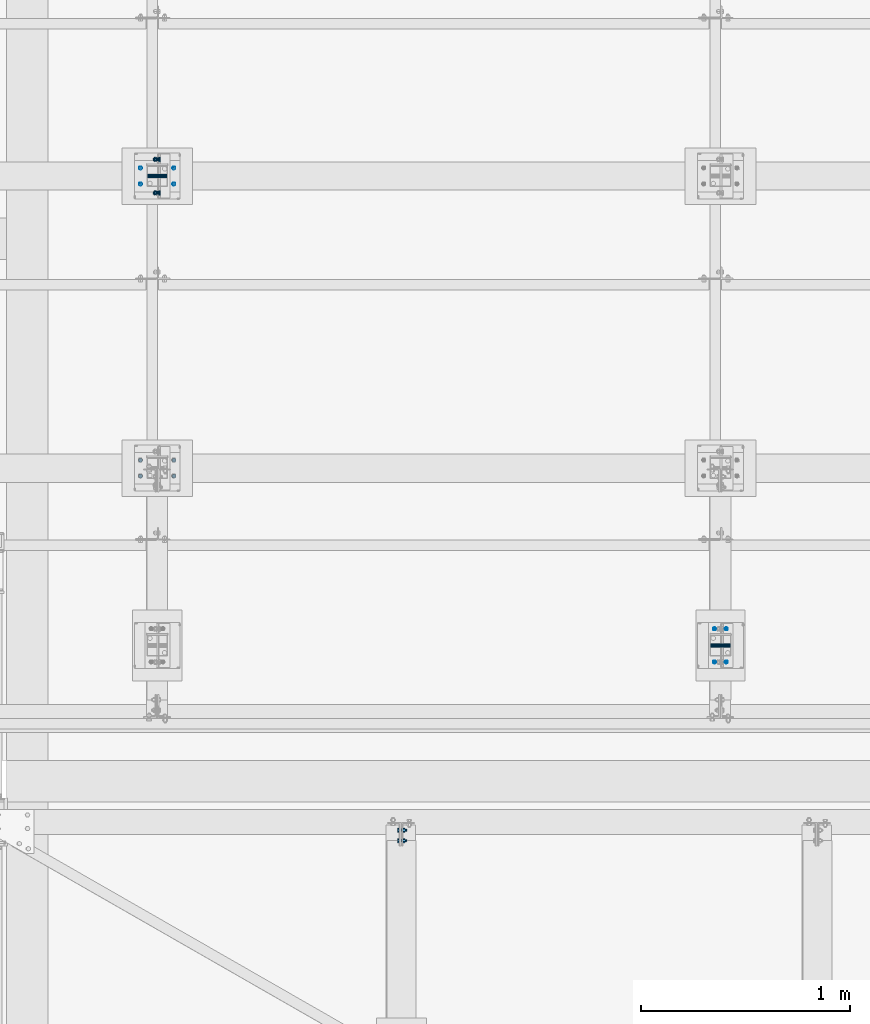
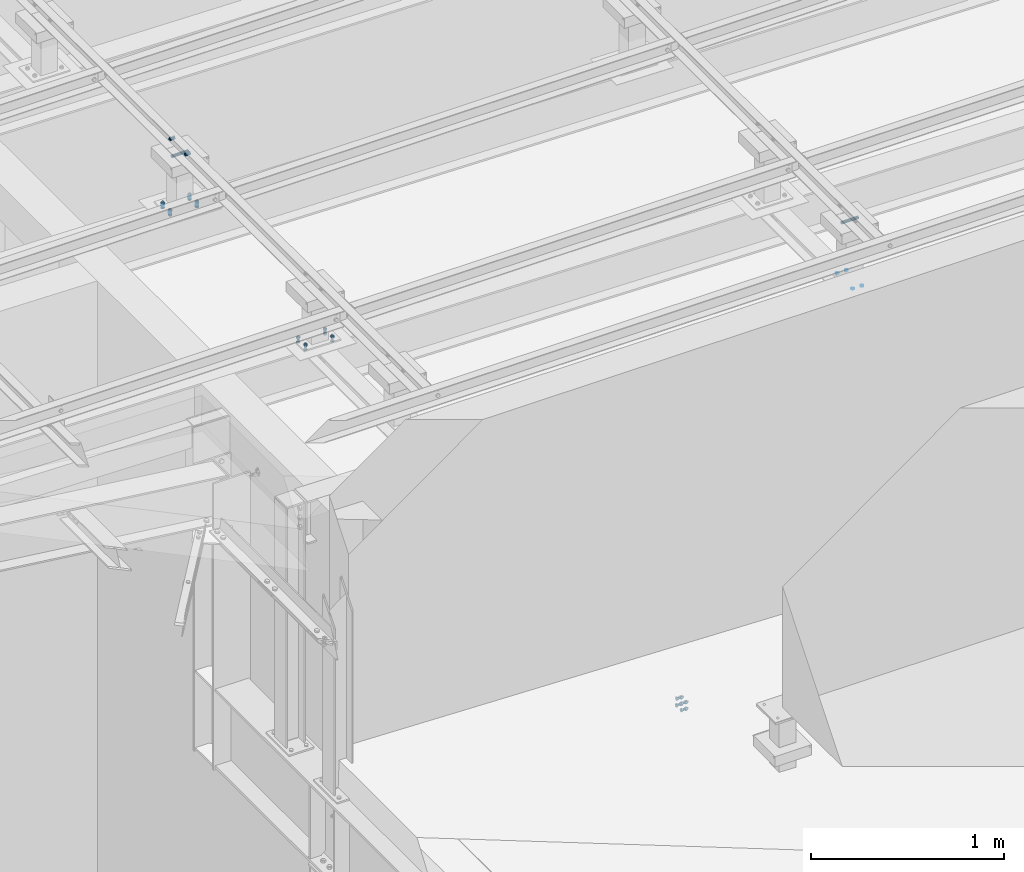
# One storey, part 390 of 3134: 8 mechanical fasteners, 7 elements without a shape of their own.
"""IFC2X3 building model written with IfcOpenShell, lengths in millimetres."""

from ifc_helpers import new_model, si_unit, frame, origin_with_axes, place, context, subcontext, project, spatial, faceted_brep, source, transform, mapped, material, type_object, element, aggregate, save


model = new_model("IFC2X3")

# Units and contexts
model_context = context("Model", 3, precision=1e-05, world=origin_with_axes())
body_context = subcontext(model_context, "Body", "Model", "MODEL_VIEW")
ifc_project = project(units=[si_unit("LENGTHUNIT", "METRE", prefix="MILLI"), si_unit("AREAUNIT", "SQUARE_METRE"), si_unit("VOLUMEUNIT", "CUBIC_METRE"), si_unit("MASSUNIT", "GRAM", prefix="KILO"), si_unit("TIMEUNIT", "SECOND"), si_unit("PLANEANGLEUNIT", "RADIAN"), si_unit("SOLIDANGLEUNIT", "STERADIAN"), si_unit("THERMODYNAMICTEMPERATUREUNIT", "DEGREE_CELSIUS"), si_unit("LUMINOUSINTENSITYUNIT", "LUMEN")], contexts=[model_context])

# Site, building, storey
site_placement = place(None, origin_with_axes())
site = spatial("IfcSite", under=ifc_project, at=site_placement, CompositionType="ELEMENT")
building_placement = place(site_placement, origin_with_axes())
building = spatial("IfcBuilding", under=site, at=building_placement, Name="Undefined", CompositionType="ELEMENT")
storey_placement = place(building_placement, origin_with_axes())
storey = spatial("IfcBuildingStorey", under=building, at=storey_placement, Name="Undefined", CompositionType="ELEMENT", Elevation=0.0)

# Assembly, mechanical fastener
assembly_1_placement = place(storey_placement, origin_with_axes())
assembly_1 = element("IfcElementAssembly", 1, at=assembly_1_placement, inside=storey, AssemblyPlace="NOTDEFINED", PredefinedType="RIGID_FRAME")
ifc_material = material(Name="8.8")
mechanical_fastener_type = type_object("IfcMechanicalFastenerType", Name="Bolt assembly")
shared_shape_1 = source(origin_with_axes(), body_context, "Body", "Brep", [
    faceted_brep([(10.9696551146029, -14.0, 0.0), (5.48482755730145, -14.0, 9.5), (-5.48482755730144, -14.0, 9.5), (-10.9696551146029, -14.0, 1.34339530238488e-15), (-5.48482755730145, -14.0, -9.5), (5.48482755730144, -14.0, -9.50000000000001), (5.48482755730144, -6.0, -9.50000000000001), (-5.48482755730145, -6.0, -9.5), (-10.9696551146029, -6.0, 1.34339530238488e-15), (-5.48482755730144, -6.0, 9.5), (5.48482755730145, -6.0, 9.5), (10.9696551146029, -6.0, 0.0), (6.0, -6.0, 0.0), (5.19615242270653, -6.0, 3.00000000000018), (2.99999999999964, -6.0, 5.19615242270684), (-6.21801588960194e-13, -6.0, 6.0), (-3.00000000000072, -6.0, 5.19615242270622), (-5.19615242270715, -6.0, 2.9999999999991), (-6.0, -6.0, -1.24360317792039e-12), (-5.19615242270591, -6.0, -3.00000000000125), (-2.99999999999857, -6.0, -5.19615242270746), (1.85874342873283e-12, -6.0, -6.0), (3.00000000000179, -6.0, -5.1961524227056), (5.19615242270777, -6.0, -2.99999999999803), (5.19615242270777, 19.0, -2.99999999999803), (3.00000000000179, 19.0, -5.1961524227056), (1.85874342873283e-12, 19.0, -6.0), (-2.99999999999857, 19.0, -5.19615242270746), (-5.19615242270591, 19.0, -3.00000000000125), (-6.0, 19.0, -1.24360317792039e-12), (-5.19615242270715, 19.0, 2.9999999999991), (-3.00000000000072, 19.0, 5.19615242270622), (-6.21801588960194e-13, 19.0, 6.0), (2.99999999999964, 19.0, 5.19615242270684), (5.19615242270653, 19.0, 3.00000000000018), (6.0, 19.0, 0.0), (10.9696551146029, 4.00000000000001, 0.0), (5.48482755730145, 4.00000000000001, 9.5), (-5.48482755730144, 4.00000000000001, 9.5), (-10.9696551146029, 4.00000000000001, 1.34339530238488e-15), (-5.48482755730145, 4.00000000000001, -9.5), (5.48482755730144, 4.00000000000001, -9.50000000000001), (5.48482755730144, 14.0, -9.50000000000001), (-5.48482755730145, 14.0, -9.5), (-10.9696551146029, 14.0, 1.34339530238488e-15), (-5.48482755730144, 14.0, 9.5), (5.48482755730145, 14.0, 9.5), (10.9696551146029, 14.0, 0.0)], [[[0, 1, 2, 3, 4, 5]], [[6, 7, 8, 9, 10, 11]], [[0, 11, 10, 1]], [[1, 10, 9, 2]], [[2, 9, 8, 3]], [[3, 8, 7, 4]], [[4, 7, 6, 5]], [[5, 6, 11, 0]], [[12, 13, 14, 15, 16, 17, 18, 19, 20, 21, 22, 23]], [[24, 25, 26, 27, 28, 29, 30, 31, 32, 33, 34, 35]], [[12, 35, 34, 13]], [[13, 34, 33, 14]], [[14, 33, 32, 15]], [[15, 32, 31, 16]], [[16, 31, 30, 17]], [[17, 30, 29, 18]], [[18, 29, 28, 19]], [[19, 28, 27, 20]], [[20, 27, 26, 21]], [[21, 26, 25, 22]], [[22, 25, 24, 23]], [[23, 24, 35, 12]], [[36, 37, 38, 39, 40, 41]], [[42, 43, 44, 45, 46, 47]], [[36, 47, 46, 37]], [[37, 46, 45, 38]], [[38, 45, 44, 39]], [[39, 44, 43, 40]], [[40, 43, 42, 41]], [[41, 42, 47, 36]]]),
    faceted_brep([(7.0, -0.1, 0.0), (6.06217782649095, -0.1, 3.50000000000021), (3.49999999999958, -0.1, 6.06217782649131), (-7.25435187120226e-13, -0.1, 7.0), (-3.50000000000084, -0.1, 6.06217782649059), (-6.06217782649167, -0.1, 3.49999999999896), (-7.0, -0.1, -1.45087037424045e-12), (-6.06217782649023, -0.1, -3.50000000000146), (-3.49999999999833, -0.1, -6.06217782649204), (2.1685340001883e-12, -0.1, -7.0), (3.50000000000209, -0.1, -6.06217782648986), (6.0621778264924, -0.1, -3.4999999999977), (6.0621778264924, 4.00000000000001, -3.4999999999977), (3.50000000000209, 4.00000000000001, -6.06217782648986), (2.1685340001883e-12, 4.00000000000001, -7.0), (-3.49999999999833, 4.00000000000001, -6.06217782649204), (-6.06217782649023, 4.00000000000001, -3.50000000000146), (-7.0, 4.00000000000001, -1.45087037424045e-12), (-6.06217782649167, 4.00000000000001, 3.49999999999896), (-3.50000000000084, 4.00000000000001, 6.06217782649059), (-7.25435187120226e-13, 4.00000000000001, 7.0), (3.49999999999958, 4.00000000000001, 6.06217782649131), (6.06217782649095, 4.00000000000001, 3.50000000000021), (7.0, 4.00000000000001, 0.0), (7.0, -5.9, 0.0), (6.06217782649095, -5.9, 3.50000000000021), (3.49999999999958, -5.9, 6.06217782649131), (-7.25435187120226e-13, -5.9, 7.0), (-3.50000000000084, -5.9, 6.06217782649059), (-6.06217782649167, -5.9, 3.49999999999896), (-7.0, -5.9, -1.45087037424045e-12), (-6.06217782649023, -5.9, -3.50000000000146), (-3.49999999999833, -5.9, -6.06217782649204), (2.1685340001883e-12, -5.9, -7.0), (3.50000000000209, -5.9, -6.06217782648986), (6.0621778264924, -5.9, -3.4999999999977), (6.0621778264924, 0.0999999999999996, -3.4999999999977), (3.50000000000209, 0.0999999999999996, -6.06217782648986), (2.1685340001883e-12, 0.0999999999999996, -7.0), (-3.49999999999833, 0.0999999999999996, -6.06217782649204), (-6.06217782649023, 0.0999999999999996, -3.50000000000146), (-7.0, 0.0999999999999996, -1.45087037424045e-12), (-6.06217782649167, 0.0999999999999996, 3.49999999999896), (-3.50000000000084, 0.0999999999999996, 6.06217782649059), (-7.25435187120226e-13, 0.0999999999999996, 7.0), (3.49999999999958, 0.0999999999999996, 6.06217782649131), (6.06217782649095, 0.0999999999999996, 3.50000000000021), (7.0, 0.0999999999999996, 0.0)], [[[0, 1, 2, 3, 4, 5, 6, 7, 8, 9, 10, 11]], [[12, 13, 14, 15, 16, 17, 18, 19, 20, 21, 22, 23]], [[0, 23, 22, 1]], [[1, 22, 21, 2]], [[2, 21, 20, 3]], [[3, 20, 19, 4]], [[4, 19, 18, 5]], [[5, 18, 17, 6]], [[6, 17, 16, 7]], [[7, 16, 15, 8]], [[8, 15, 14, 9]], [[9, 14, 13, 10]], [[10, 13, 12, 11]], [[11, 12, 23, 0]], [[24, 25, 26, 27, 28, 29, 30, 31, 32, 33, 34, 35]], [[36, 37, 38, 39, 40, 41, 42, 43, 44, 45, 46, 47]], [[24, 47, 46, 25]], [[25, 46, 45, 26]], [[26, 45, 44, 27]], [[27, 44, 43, 28]], [[28, 43, 42, 29]], [[29, 42, 41, 30]], [[30, 41, 40, 31]], [[31, 40, 39, 32]], [[32, 39, 38, 33]], [[33, 38, 37, 34]], [[34, 37, 36, 35]], [[35, 36, 47, 24]]]),
])
mechanical_fastener_1_placement = place(assembly_1_placement, frame((72658.73, 29065.0, 5885.0), z_axis=(0.0, 0.0, 1.0), x_axis=(0.0, 1.0, 0.0)))
mechanical_fastener_1 = element("IfcMechanicalFastener", 2, at=mechanical_fastener_1_placement, type_object=mechanical_fastener_type, material=ifc_material, Name="Bolt assembly", NominalDiameter=12.0, NominalLength=25.0, context=body_context, shape_type="MappedRepresentation", body=[
    mapped(shared_shape_1, transform((0.0, 0.0, 0.0))),
    mapped(shared_shape_1, transform((160.0, 0.0, 0.0))),
])

assembly_2_placement = place(storey_placement, origin_with_axes())
assembly_2 = element("IfcElementAssembly", 3, at=assembly_2_placement, inside=storey, AssemblyPlace="NOTDEFINED", PredefinedType="RIGID_FRAME")
shared_shape_2 = source(origin_with_axes(), body_context, "Body", "Brep", [
    faceted_brep([(7.0, 13.0000253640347, 0.0), (6.06217782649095, 13.0000253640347, 3.50000000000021), (3.49999999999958, 13.0000253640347, 6.06217782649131), (-7.25435187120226e-13, 13.0000253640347, 7.0), (-3.50000000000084, 13.0000253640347, 6.06217782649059), (-6.06217782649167, 13.0000253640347, 3.49999999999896), (-7.0, 13.0000253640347, -1.45087037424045e-12), (-6.06217782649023, 13.0000253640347, -3.50000000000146), (-3.49999999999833, 13.0000253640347, -6.06217782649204), (2.1685340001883e-12, 13.0000253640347, -7.0), (3.50000000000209, 13.0000253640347, -6.06217782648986), (6.0621778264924, 13.0000253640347, -3.4999999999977), (6.0621778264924, 15.0999999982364, -3.4999999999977), (3.50000000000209, 15.0999999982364, -6.06217782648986), (2.1685340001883e-12, 15.0999999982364, -7.0), (-3.49999999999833, 15.0999999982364, -6.06217782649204), (-6.06217782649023, 15.0999999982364, -3.50000000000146), (-7.0, 15.0999999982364, -1.45087037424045e-12), (-6.06217782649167, 15.0999999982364, 3.49999999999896), (-3.50000000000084, 15.0999999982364, 6.06217782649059), (-7.25435187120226e-13, 15.0999999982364, 7.0), (3.49999999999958, 15.0999999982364, 6.06217782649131), (6.06217782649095, 15.0999999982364, 3.50000000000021), (7.0, 15.0999999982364, 0.0)], [[[0, 1, 2, 3, 4, 5, 6, 7, 8, 9, 10, 11]], [[12, 13, 14, 15, 16, 17, 18, 19, 20, 21, 22, 23]], [[0, 23, 22, 1]], [[1, 22, 21, 2]], [[2, 21, 20, 3]], [[3, 20, 19, 4]], [[4, 19, 18, 5]], [[5, 18, 17, 6]], [[6, 17, 16, 7]], [[7, 16, 15, 8]], [[8, 15, 14, 9]], [[9, 14, 13, 10]], [[10, 13, 12, 11]], [[11, 12, 23, 0]]]),
])
mechanical_fastener_2_placement = place(assembly_2_placement, frame((75330.2753260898, 26894.9983647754, 5447.53060992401), z_axis=(0.0, -1.0, 0.0), x_axis=(0.999799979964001, 0.0, -0.0200000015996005)))
mechanical_fastener_2 = element("IfcMechanicalFastener", 4, at=mechanical_fastener_2_placement, type_object=mechanical_fastener_type, material=ifc_material, Name="Bolt assembly", NominalDiameter=12.0, NominalLength=2.0, context=body_context, shape_type="MappedRepresentation", body=[
    mapped(shared_shape_2, transform((0.0, -5.32963895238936e-10, -79.9999999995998))),
    mapped(shared_shape_2, transform((55.9999999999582, 4.54747350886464e-13, -80.0))),
    mapped(shared_shape_2, transform((0.0, 5.3114490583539e-10, 79.9999999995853))),
    mapped(shared_shape_2, transform((55.9999999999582, 4.54747350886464e-13, 80.0))),
])
aggregate(assembly_2, [mechanical_fastener_2])

assembly_3_placement = place(storey_placement, origin_with_axes())
assembly_3 = element("IfcElementAssembly", 5, at=assembly_3_placement, inside=storey, AssemblyPlace="NOTDEFINED", PredefinedType="RIGID_FRAME")
mechanical_fastener_3_placement = place(assembly_3_placement, frame((72658.2680906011, 29183.0, 5500.96064104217), z_axis=(-0.999799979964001, 0.0, 0.0200000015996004), x_axis=(0.0, -1.0, 0.0)))
mechanical_fastener_3 = element("IfcMechanicalFastener", 6, at=mechanical_fastener_3_placement, type_object=mechanical_fastener_type, material=ifc_material, Name="Bolt assembly", NominalDiameter=12.0, NominalLength=2.0, context=body_context, shape_type="MappedRepresentation", body=[
    mapped(shared_shape_2, transform((0.0, -5.32963895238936e-10, -79.9999999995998))),
    mapped(shared_shape_2, transform((76.0, -5.32963895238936e-10, -79.9999999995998))),
    mapped(shared_shape_2, transform((0.0, 5.3114490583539e-10, 79.9999999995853))),
    mapped(shared_shape_2, transform((76.0, 5.3114490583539e-10, 79.9999999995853))),
])
aggregate(assembly_3, [mechanical_fastener_3])

assembly_4_placement = place(storey_placement, origin_with_axes())
assembly_4 = element("IfcElementAssembly", 7, at=assembly_4_placement, inside=storey, AssemblyPlace="NOTDEFINED", PredefinedType="RIGID_FRAME")
shared_shape_3 = source(origin_with_axes(), body_context, "Body", "Brep", [
    faceted_brep([(9.0, -50.0, 0.0), (7.79422863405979, -50.0, 4.50000000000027), (4.49999999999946, -50.0, 7.79422863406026), (-9.3270238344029e-13, -50.0, 9.0), (-4.50000000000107, -50.0, 7.79422863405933), (-7.79422863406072, -50.0, 4.49999999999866), (-9.0, -50.0, -1.86540476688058e-12), (-7.79422863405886, -50.0, -4.50000000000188), (-4.49999999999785, -50.0, -7.79422863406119), (2.78811514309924e-12, -50.0, -9.0), (4.50000000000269, -50.0, -7.7942286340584), (7.79422863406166, -50.0, -4.49999999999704), (7.79422863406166, 50.1, -4.49999999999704), (4.50000000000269, 50.1, -7.7942286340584), (2.78811514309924e-12, 50.1, -9.0), (-4.49999999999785, 50.1, -7.79422863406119), (-7.79422863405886, 50.1, -4.50000000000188), (-9.0, 50.1, -1.86540476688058e-12), (-7.79422863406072, 50.1, 4.49999999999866), (-4.50000000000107, 50.1, 7.79422863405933), (-9.3270238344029e-13, 50.1, 9.0), (4.49999999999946, 50.1, 7.79422863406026), (7.79422863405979, 50.1, 4.50000000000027), (9.0, 50.1, 0.0)], [[[0, 1, 2, 3, 4, 5, 6, 7, 8, 9, 10, 11]], [[12, 13, 14, 15, 16, 17, 18, 19, 20, 21, 22, 23]], [[0, 23, 22, 1]], [[1, 22, 21, 2]], [[2, 21, 20, 3]], [[3, 20, 19, 4]], [[4, 19, 18, 5]], [[5, 18, 17, 6]], [[6, 17, 16, 7]], [[7, 16, 15, 8]], [[8, 15, 14, 9]], [[9, 14, 13, 10]], [[10, 13, 12, 11]], [[11, 12, 23, 0]]]),
])
mechanical_fastener_4_placement = place(assembly_4_placement, frame((75358.73, 26895.0, 5836.0), z_axis=(0.0, 1.0, 0.0), x_axis=(0.0, 0.0, 1.0)))
mechanical_fastener_4 = element("IfcMechanicalFastener", 8, at=mechanical_fastener_4_placement, type_object=mechanical_fastener_type, material=ifc_material, Name="Bolt assembly", NominalDiameter=16.0, NominalLength=100.0, context=body_context, shape_type="MappedRepresentation", body=[
    mapped(shared_shape_3, transform((0.0, 0.0, 0.0))),
])
aggregate(assembly_4, [mechanical_fastener_4])

# Mechanical fastener
mechanical_fastener_5_placement = place(assembly_1_placement, frame((72658.73, 29145.0, 5836.0), z_axis=(0.0, 1.0, 0.0), x_axis=(0.0, 0.0, 1.0)))
mechanical_fastener_5 = element("IfcMechanicalFastener", 9, at=mechanical_fastener_5_placement, type_object=mechanical_fastener_type, material=ifc_material, Name="Bolt assembly", NominalDiameter=16.0, NominalLength=100.0, context=body_context, shape_type="MappedRepresentation", body=[
    mapped(shared_shape_3, transform((0.0, 0.0, 0.0))),
])

aggregate(assembly_1, [mechanical_fastener_5, mechanical_fastener_1])

# Assembly, mechanical fastener
assembly_5_placement = place(storey_placement, origin_with_axes())
assembly_5 = element("IfcElementAssembly", 10, at=assembly_5_placement, inside=storey, AssemblyPlace="NOTDEFINED", PredefinedType="RIGID_FRAME")
shared_shape_4 = source(origin_with_axes(), body_context, "Body", "Brep", [
    faceted_brep([(10.9696551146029, -19.2575524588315, 0.0), (5.48482755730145, -19.2575524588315, 9.5), (-5.48482755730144, -19.2575524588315, 9.5), (-10.9696551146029, -19.2575524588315, 1.34339530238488e-15), (-5.48482755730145, -19.2575524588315, -9.5), (5.48482755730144, -19.2575524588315, -9.50000000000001), (5.48482755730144, -11.2575524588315, -9.50000000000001), (-5.48482755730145, -11.2575524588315, -9.5), (-10.9696551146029, -11.2575524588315, 1.34339530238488e-15), (-5.48482755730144, -11.2575524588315, 9.5), (5.48482755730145, -11.2575524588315, 9.5), (10.9696551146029, -11.2575524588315, 0.0), (6.0, -11.2575524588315, 0.0), (5.19615242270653, -11.2575524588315, 3.00000000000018), (2.99999999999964, -11.2575524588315, 5.19615242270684), (-6.21801588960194e-13, -11.2575524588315, 6.0), (-3.00000000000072, -11.2575524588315, 5.19615242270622), (-5.19615242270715, -11.2575524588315, 2.9999999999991), (-6.0, -11.2575524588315, -1.24360317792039e-12), (-5.19615242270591, -11.2575524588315, -3.00000000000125), (-2.99999999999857, -11.2575524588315, -5.19615242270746), (1.85874342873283e-12, -11.2575524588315, -6.0), (3.00000000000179, -11.2575524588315, -5.1961524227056), (5.19615242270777, -11.2575524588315, -2.99999999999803), (5.19615242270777, 23.7424475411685, -2.99999999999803), (3.00000000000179, 23.7424475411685, -5.1961524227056), (1.85874342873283e-12, 23.7424475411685, -6.0), (-2.99999999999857, 23.7424475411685, -5.19615242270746), (-5.19615242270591, 23.7424475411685, -3.00000000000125), (-6.0, 23.7424475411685, -1.24360317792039e-12), (-5.19615242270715, 23.7424475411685, 2.9999999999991), (-3.00000000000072, 23.7424475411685, 5.19615242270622), (-6.21801588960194e-13, 23.7424475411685, 6.0), (2.99999999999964, 23.7424475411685, 5.19615242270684), (5.19615242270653, 23.7424475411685, 3.00000000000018), (6.0, 23.7424475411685, 0.0), (10.9696551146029, 6.25018760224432, 0.0), (5.48482755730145, 6.25018760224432, 9.5), (-5.48482755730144, 6.25018760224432, 9.5), (-10.9696551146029, 6.25018760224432, 1.34339530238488e-15), (-5.48482755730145, 6.25018760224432, -9.5), (5.48482755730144, 6.25018760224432, -9.50000000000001), (5.48482755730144, 16.2501876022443, -9.50000000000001), (-5.48482755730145, 16.2501876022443, -9.5), (-10.9696551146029, 16.2501876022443, 1.34339530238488e-15), (-5.48482755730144, 16.2501876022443, 9.5), (5.48482755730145, 16.2501876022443, 9.5), (10.9696551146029, 16.2501876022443, 0.0)], [[[0, 1, 2, 3, 4, 5]], [[6, 7, 8, 9, 10, 11]], [[0, 11, 10, 1]], [[1, 10, 9, 2]], [[2, 9, 8, 3]], [[3, 8, 7, 4]], [[4, 7, 6, 5]], [[5, 6, 11, 0]], [[12, 13, 14, 15, 16, 17, 18, 19, 20, 21, 22, 23]], [[24, 25, 26, 27, 28, 29, 30, 31, 32, 33, 34, 35]], [[12, 35, 34, 13]], [[13, 34, 33, 14]], [[14, 33, 32, 15]], [[15, 32, 31, 16]], [[16, 31, 30, 17]], [[17, 30, 29, 18]], [[18, 29, 28, 19]], [[19, 28, 27, 20]], [[20, 27, 26, 21]], [[21, 26, 25, 22]], [[22, 25, 24, 23]], [[23, 24, 35, 12]], [[36, 37, 38, 39, 40, 41]], [[42, 43, 44, 45, 46, 47]], [[36, 47, 46, 37]], [[37, 46, 45, 38]], [[38, 45, 44, 39]], [[39, 44, 43, 40]], [[40, 43, 42, 41]], [[41, 42, 47, 36]]]),
    faceted_brep([(7.0, -11.1575524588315, 0.0), (6.06217782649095, -11.1575524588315, 3.50000000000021), (3.49999999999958, -11.1575524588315, 6.06217782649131), (-7.25435187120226e-13, -11.1575524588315, 7.0), (-3.50000000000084, -11.1575524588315, 6.06217782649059), (-6.06217782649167, -11.1575524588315, 3.49999999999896), (-7.0, -11.1575524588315, -1.45087037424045e-12), (-6.06217782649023, -11.1575524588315, -3.50000000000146), (-3.49999999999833, -11.1575524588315, -6.06217782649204), (2.1685340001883e-12, -11.1575524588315, -7.0), (3.50000000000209, -11.1575524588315, -6.06217782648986), (6.0621778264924, -11.1575524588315, -3.4999999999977), (6.0621778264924, -5.15755245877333, -3.4999999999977), (3.50000000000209, -5.15755245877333, -6.06217782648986), (2.1685340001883e-12, -5.15755245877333, -7.0), (-3.49999999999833, -5.15755245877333, -6.06217782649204), (-6.06217782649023, -5.15755245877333, -3.50000000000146), (-7.0, -5.15755245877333, -1.45087037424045e-12), (-6.06217782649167, -5.15755245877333, 3.49999999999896), (-3.50000000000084, -5.15755245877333, 6.06217782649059), (-7.25435187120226e-13, -5.15755245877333, 7.0), (3.49999999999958, -5.15755245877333, 6.06217782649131), (6.06217782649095, -5.15755245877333, 3.50000000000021), (7.0, -5.15755245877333, 0.0), (7.0, 0.150187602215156, 0.0), (6.06217782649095, 0.150187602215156, 3.50000000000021), (3.49999999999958, 0.150187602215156, 6.06217782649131), (-7.25435187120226e-13, 0.150187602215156, 7.0), (-3.50000000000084, 0.150187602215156, 6.06217782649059), (-6.06217782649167, 0.150187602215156, 3.49999999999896), (-7.0, 0.150187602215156, -1.45087037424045e-12), (-6.06217782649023, 0.150187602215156, -3.50000000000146), (-3.49999999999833, 0.150187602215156, -6.06217782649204), (2.1685340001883e-12, 0.150187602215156, -7.0), (3.50000000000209, 0.150187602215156, -6.06217782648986), (6.0621778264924, 0.150187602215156, -3.4999999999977), (6.0621778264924, 6.25018760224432, -3.4999999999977), (3.50000000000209, 6.25018760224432, -6.06217782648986), (2.1685340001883e-12, 6.25018760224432, -7.0), (-3.49999999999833, 6.25018760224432, -6.06217782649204), (-6.06217782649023, 6.25018760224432, -3.50000000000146), (-7.0, 6.25018760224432, -1.45087037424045e-12), (-6.06217782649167, 6.25018760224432, 3.49999999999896), (-3.50000000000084, 6.25018760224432, 6.06217782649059), (-7.25435187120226e-13, 6.25018760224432, 7.0), (3.49999999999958, 6.25018760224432, 6.06217782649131), (6.06217782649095, 6.25018760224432, 3.50000000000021), (7.0, 6.25018760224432, 0.0), (7.0, -5.25516609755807, 0.0), (6.06217782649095, -5.25516609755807, 3.50000000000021), (3.49999999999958, -5.25516609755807, 6.06217782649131), (-7.25435187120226e-13, -5.25516609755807, 7.0), (-3.50000000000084, -5.25516609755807, 6.06217782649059), (-6.06217782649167, -5.25516609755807, 3.49999999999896), (-7.0, -5.25516609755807, -1.45087037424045e-12), (-6.06217782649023, -5.25516609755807, -3.50000000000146), (-3.49999999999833, -5.25516609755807, -6.06217782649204), (2.1685340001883e-12, -5.25516609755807, -7.0), (3.50000000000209, -5.25516609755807, -6.06217782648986), (6.0621778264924, -5.25516609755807, -3.4999999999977), (6.0621778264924, 0.244833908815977, -3.4999999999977), (3.50000000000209, 0.244833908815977, -6.06217782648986), (2.1685340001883e-12, 0.244833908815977, -7.0), (-3.49999999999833, 0.244833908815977, -6.06217782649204), (-6.06217782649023, 0.244833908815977, -3.50000000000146), (-7.0, 0.244833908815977, -1.45087037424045e-12), (-6.06217782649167, 0.244833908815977, 3.49999999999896), (-3.50000000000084, 0.244833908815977, 6.06217782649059), (-7.25435187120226e-13, 0.244833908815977, 7.0), (3.49999999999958, 0.244833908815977, 6.06217782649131), (6.06217782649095, 0.244833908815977, 3.50000000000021), (7.0, 0.244833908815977, 0.0)], [[[0, 1, 2, 3, 4, 5, 6, 7, 8, 9, 10, 11]], [[12, 13, 14, 15, 16, 17, 18, 19, 20, 21, 22, 23]], [[0, 23, 22, 1]], [[1, 22, 21, 2]], [[2, 21, 20, 3]], [[3, 20, 19, 4]], [[4, 19, 18, 5]], [[5, 18, 17, 6]], [[6, 17, 16, 7]], [[7, 16, 15, 8]], [[8, 15, 14, 9]], [[9, 14, 13, 10]], [[10, 13, 12, 11]], [[11, 12, 23, 0]], [[24, 25, 26, 27, 28, 29, 30, 31, 32, 33, 34, 35]], [[36, 37, 38, 39, 40, 41, 42, 43, 44, 45, 46, 47]], [[24, 47, 46, 25]], [[25, 46, 45, 26]], [[26, 45, 44, 27]], [[27, 44, 43, 28]], [[28, 43, 42, 29]], [[29, 42, 41, 30]], [[30, 41, 40, 31]], [[31, 40, 39, 32]], [[32, 39, 38, 33]], [[33, 38, 37, 34]], [[34, 37, 36, 35]], [[35, 36, 47, 24]], [[48, 49, 50, 51, 52, 53, 54, 55, 56, 57, 58, 59]], [[60, 61, 62, 63, 64, 65, 66, 67, 68, 69, 70, 71]], [[48, 71, 70, 49]], [[49, 70, 69, 50]], [[50, 69, 68, 51]], [[51, 68, 67, 52]], [[52, 67, 66, 53]], [[53, 66, 65, 54]], [[54, 65, 64, 55]], [[55, 64, 63, 56]], [[56, 63, 62, 57]], [[57, 62, 61, 58]], [[58, 61, 60, 59]], [[59, 60, 71, 48]]]),
])
mechanical_fastener_6_placement = place(assembly_5_placement, frame((73830.0752897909, 26010.0, 3871.04754927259), z_axis=(0.0309396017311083, 0.0, 0.999521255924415), x_axis=(0.0, -1.0, 0.0)))
mechanical_fastener_6 = element("IfcMechanicalFastener", 11, at=mechanical_fastener_6_placement, type_object=mechanical_fastener_type, material=ifc_material, Name="Bolt assembly", NominalDiameter=12.0, NominalLength=35.0, context=body_context, shape_type="MappedRepresentation", body=[
    mapped(shared_shape_4, transform((0.0, 0.0, -21.0))),
    mapped(shared_shape_4, transform((50.0, -1.01863406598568e-10, -20.9999999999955))),
    mapped(shared_shape_4, transform((0.0, 0.0, 21.0))),
    mapped(shared_shape_4, transform((50.0, 1.30967237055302e-10, 20.9999999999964))),
])
aggregate(assembly_5, [mechanical_fastener_6])

assembly_6_placement = place(storey_placement, origin_with_axes())
assembly_6 = element("IfcElementAssembly", 12, at=assembly_6_placement, inside=storey, Name="IPE270", AssemblyPlace="NOTDEFINED", PredefinedType="RIGID_FRAME")
shared_shape_5 = source(origin_with_axes(), body_context, "Body", "Brep", [
    faceted_brep([(10.9696551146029, -5.19501471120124, 0.0), (5.48482755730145, -5.19501471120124, 9.5), (-5.48482755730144, -5.19501471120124, 9.5), (-10.9696551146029, -5.19501471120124, 1.34339530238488e-15), (-5.48482755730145, -5.19501471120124, -9.5), (5.48482755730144, -5.19501471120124, -9.50000000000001), (5.48482755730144, 2.80498528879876, -9.50000000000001), (-5.48482755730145, 2.80498528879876, -9.5), (-10.9696551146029, 2.80498528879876, 1.34339530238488e-15), (-5.48482755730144, 2.80498528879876, 9.5), (5.48482755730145, 2.80498528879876, 9.5), (10.9696551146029, 2.80498528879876, 0.0), (6.0, 2.80498528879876, 0.0), (5.19615242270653, 2.80498528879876, 3.00000000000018), (2.99999999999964, 2.80498528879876, 5.19615242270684), (-6.21801588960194e-13, 2.80498528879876, 6.0), (-3.00000000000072, 2.80498528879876, 5.19615242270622), (-5.19615242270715, 2.80498528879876, 2.9999999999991), (-6.0, 2.80498528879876, -1.24360317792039e-12), (-5.19615242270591, 2.80498528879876, -3.00000000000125), (-2.99999999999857, 2.80498528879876, -5.19615242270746), (1.85874342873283e-12, 2.80498528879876, -6.0), (3.00000000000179, 2.80498528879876, -5.1961524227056), (5.19615242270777, 2.80498528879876, -2.99999999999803), (5.19615242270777, 37.8049852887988, -2.99999999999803), (3.00000000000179, 37.8049852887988, -5.1961524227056), (1.85874342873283e-12, 37.8049852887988, -6.0), (-2.99999999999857, 37.8049852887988, -5.19615242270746), (-5.19615242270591, 37.8049852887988, -3.00000000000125), (-6.0, 37.8049852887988, -1.24360317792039e-12), (-5.19615242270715, 37.8049852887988, 2.9999999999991), (-3.00000000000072, 37.8049852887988, 5.19615242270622), (-6.21801588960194e-13, 37.8049852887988, 6.0), (2.99999999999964, 37.8049852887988, 5.19615242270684), (5.19615242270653, 37.8049852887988, 3.00000000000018), (6.0, 37.8049852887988, 0.0), (10.9696551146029, 23.0139082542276, 0.0), (5.48482755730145, 23.0139082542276, 9.5), (-5.48482755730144, 23.0139082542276, 9.5), (-10.9696551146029, 23.0139082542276, 1.34339530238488e-15), (-5.48482755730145, 23.0139082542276, -9.5), (5.48482755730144, 23.0139082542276, -9.50000000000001), (5.48482755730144, 33.0139082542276, -9.50000000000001), (-5.48482755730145, 33.0139082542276, -9.5), (-10.9696551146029, 33.0139082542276, 1.34339530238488e-15), (-5.48482755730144, 33.0139082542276, 9.5), (5.48482755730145, 33.0139082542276, 9.5), (10.9696551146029, 33.0139082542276, 0.0)], [[[0, 1, 2, 3, 4, 5]], [[6, 7, 8, 9, 10, 11]], [[0, 11, 10, 1]], [[1, 10, 9, 2]], [[2, 9, 8, 3]], [[3, 8, 7, 4]], [[4, 7, 6, 5]], [[5, 6, 11, 0]], [[12, 13, 14, 15, 16, 17, 18, 19, 20, 21, 22, 23]], [[24, 25, 26, 27, 28, 29, 30, 31, 32, 33, 34, 35]], [[12, 35, 34, 13]], [[13, 34, 33, 14]], [[14, 33, 32, 15]], [[15, 32, 31, 16]], [[16, 31, 30, 17]], [[17, 30, 29, 18]], [[18, 29, 28, 19]], [[19, 28, 27, 20]], [[20, 27, 26, 21]], [[21, 26, 25, 22]], [[22, 25, 24, 23]], [[23, 24, 35, 12]], [[36, 37, 38, 39, 40, 41]], [[42, 43, 44, 45, 46, 47]], [[36, 47, 46, 37]], [[37, 46, 45, 38]], [[38, 45, 44, 39]], [[39, 44, 43, 40]], [[40, 43, 42, 41]], [[41, 42, 47, 36]]]),
    faceted_brep([(7.0, 14.9139082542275, 0.0), (6.06217782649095, 14.9139082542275, 3.50000000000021), (3.49999999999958, 14.9139082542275, 6.06217782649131), (-7.25435187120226e-13, 14.9139082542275, 7.0), (-3.50000000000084, 14.9139082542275, 6.06217782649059), (-6.06217782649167, 14.9139082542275, 3.49999999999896), (-7.0, 14.9139082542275, -1.45087037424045e-12), (-6.06217782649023, 14.9139082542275, -3.50000000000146), (-3.49999999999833, 14.9139082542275, -6.06217782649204), (2.1685340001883e-12, 14.9139082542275, -7.0), (3.50000000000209, 14.9139082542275, -6.06217782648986), (6.0621778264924, 14.9139082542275, -3.4999999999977), (6.0621778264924, 23.0139082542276, -3.4999999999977), (3.50000000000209, 23.0139082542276, -6.06217782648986), (2.1685340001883e-12, 23.0139082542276, -7.0), (-3.49999999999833, 23.0139082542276, -6.06217782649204), (-6.06217782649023, 23.0139082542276, -3.50000000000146), (-7.0, 23.0139082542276, -1.45087037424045e-12), (-6.06217782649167, 23.0139082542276, 3.49999999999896), (-3.50000000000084, 23.0139082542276, 6.06217782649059), (-7.25435187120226e-13, 23.0139082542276, 7.0), (3.49999999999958, 23.0139082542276, 6.06217782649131), (6.06217782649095, 23.0139082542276, 3.50000000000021), (7.0, 23.0139082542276, 0.0), (7.0, 2.90498528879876, 0.0), (6.06217782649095, 2.90498528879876, 3.50000000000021), (3.49999999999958, 2.90498528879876, 6.06217782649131), (-7.25435187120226e-13, 2.90498528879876, 7.0), (-3.50000000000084, 2.90498528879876, 6.06217782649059), (-6.06217782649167, 2.90498528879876, 3.49999999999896), (-7.0, 2.90498528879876, -1.45087037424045e-12), (-6.06217782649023, 2.90498528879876, -3.50000000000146), (-3.49999999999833, 2.90498528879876, -6.06217782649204), (2.1685340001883e-12, 2.90498528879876, -7.0), (3.50000000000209, 2.90498528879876, -6.06217782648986), (6.0621778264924, 2.90498528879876, -3.4999999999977), (6.0621778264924, 13.1051237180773, -3.4999999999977), (3.50000000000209, 13.1051237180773, -6.06217782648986), (2.1685340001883e-12, 13.1051237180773, -7.0), (-3.49999999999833, 13.1051237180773, -6.06217782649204), (-6.06217782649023, 13.1051237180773, -3.50000000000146), (-7.0, 13.1051237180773, -1.45087037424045e-12), (-6.06217782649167, 13.1051237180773, 3.49999999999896), (-3.50000000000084, 13.1051237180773, 6.06217782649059), (-7.25435187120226e-13, 13.1051237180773, 7.0), (3.49999999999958, 13.1051237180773, 6.06217782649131), (6.06217782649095, 13.1051237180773, 3.50000000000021), (7.0, 13.1051237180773, 0.0)], [[[0, 1, 2, 3, 4, 5, 6, 7, 8, 9, 10, 11]], [[12, 13, 14, 15, 16, 17, 18, 19, 20, 21, 22, 23]], [[0, 23, 22, 1]], [[1, 22, 21, 2]], [[2, 21, 20, 3]], [[3, 20, 19, 4]], [[4, 19, 18, 5]], [[5, 18, 17, 6]], [[6, 17, 16, 7]], [[7, 16, 15, 8]], [[8, 15, 14, 9]], [[9, 14, 13, 10]], [[10, 13, 12, 11]], [[11, 12, 23, 0]], [[24, 25, 26, 27, 28, 29, 30, 31, 32, 33, 34, 35]], [[36, 37, 38, 39, 40, 41, 42, 43, 44, 45, 46, 47]], [[24, 47, 46, 25]], [[25, 46, 45, 26]], [[26, 45, 44, 27]], [[27, 44, 43, 28]], [[28, 43, 42, 29]], [[29, 42, 41, 30]], [[30, 41, 40, 31]], [[31, 40, 39, 32]], [[32, 39, 38, 33]], [[33, 38, 37, 34]], [[34, 37, 36, 35]], [[35, 36, 47, 24]]]),
])
mechanical_fastener_7_placement = place(assembly_6_placement, frame((72658.2680906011, 29183.0, 5500.96064104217), z_axis=(-0.999799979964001, 0.0, 0.0200000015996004), x_axis=(0.0, -1.0, 0.0)))
mechanical_fastener_7 = element("IfcMechanicalFastener", 13, at=mechanical_fastener_7_placement, type_object=mechanical_fastener_type, material=ifc_material, Name="Bolt assembly", NominalDiameter=12.0, NominalLength=35.0, context=body_context, shape_type="MappedRepresentation", body=[
    mapped(shared_shape_5, transform((0.0, -5.32963895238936e-10, -79.9999999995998))),
    mapped(shared_shape_5, transform((76.0, -5.32963895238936e-10, -79.9999999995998))),
    mapped(shared_shape_5, transform((0.0, 5.3114490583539e-10, 79.9999999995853))),
    mapped(shared_shape_5, transform((76.0, 5.3114490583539e-10, 79.9999999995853))),
])
aggregate(assembly_6, [mechanical_fastener_7])

assembly_7_placement = place(storey_placement, origin_with_axes())
assembly_7 = element("IfcElementAssembly", 14, at=assembly_7_placement, inside=storey, Name="IPE270", AssemblyPlace="NOTDEFINED", PredefinedType="RIGID_FRAME")
mechanical_fastener_8_placement = place(assembly_7_placement, frame((72658.2680906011, 27783.0, 5500.96064104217), z_axis=(-0.999799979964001, 0.0, 0.0200000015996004), x_axis=(0.0, -1.0, 0.0)))
mechanical_fastener_8 = element("IfcMechanicalFastener", 15, at=mechanical_fastener_8_placement, type_object=mechanical_fastener_type, material=ifc_material, Name="Bolt assembly", NominalDiameter=12.0, NominalLength=35.0, context=body_context, shape_type="MappedRepresentation", body=[
    mapped(shared_shape_5, transform((0.0, -5.32963895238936e-10, -79.9999999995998))),
    mapped(shared_shape_5, transform((76.0, -5.32963895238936e-10, -79.9999999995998))),
    mapped(shared_shape_5, transform((0.0, 5.3114490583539e-10, 79.9999999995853))),
    mapped(shared_shape_5, transform((76.0, 5.3114490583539e-10, 79.9999999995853))),
])
aggregate(assembly_7, [mechanical_fastener_8])

save(model, "model.ifc")
